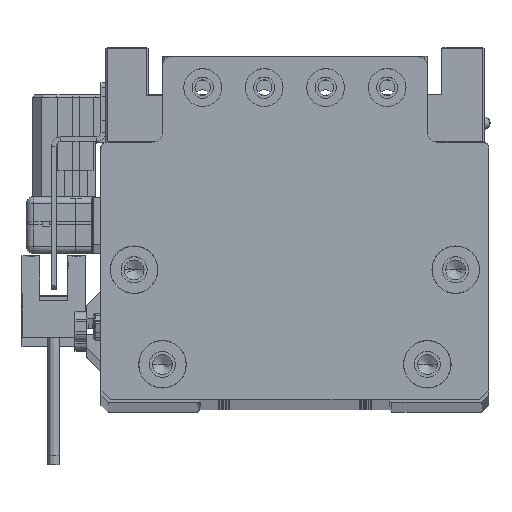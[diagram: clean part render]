
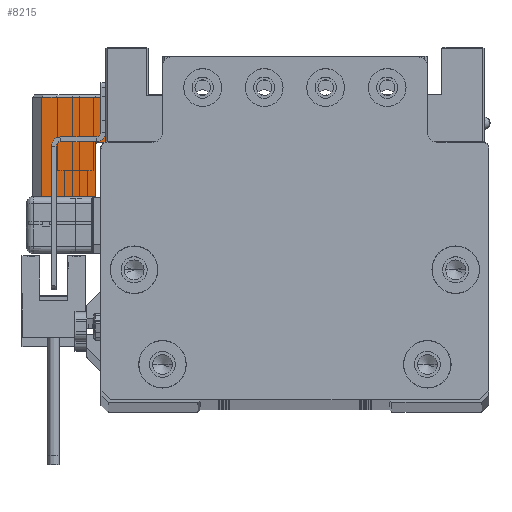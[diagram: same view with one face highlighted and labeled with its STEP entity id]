
A CAD part, top view. The second image highlights one B-rep face of the part: STEP entity #8215.
In plain terms, the highlighted planar face has unit normal (0, 0, 1) as drawn and (1, 0, 0) by its records, which use the part's own axes.
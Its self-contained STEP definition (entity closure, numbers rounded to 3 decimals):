
#59 = FACE_OUTER_BOUND ( 'NONE', #21558, .T. ) ;
#178 = CARTESIAN_POINT ( 'NONE',  ( 17., 0.75, -15.5 ) ) ;
#208 = VERTEX_POINT ( 'NONE', #46116 ) ;
#4350 = LINE ( 'NONE', #7999, #44305 ) ;
#5747 = EDGE_CURVE ( 'NONE', #38354, #52296, #51685, .T. ) ;
#7735 = EDGE_CURVE ( 'NONE', #38327, #23419, #14277, .T. ) ;
#7748 = VECTOR ( 'NONE', #29113, 1000. ) ;
#7999 = CARTESIAN_POINT ( 'NONE',  ( 17., -10.75, -15.5 ) ) ;
#8119 = EDGE_CURVE ( 'NONE', #27201, #38327, #46453, .T. ) ;
#8215 = ADVANCED_FACE ( 'NONE', ( #59 ), #41623, .T. ) ;
#8336 = ORIENTED_EDGE ( 'NONE', *, *, #7735, .T. ) ;
#9387 = DIRECTION ( 'NONE',  ( 0., 0., -1. ) ) ;
#9907 = VECTOR ( 'NONE', #51008, 1000. ) ;
#14277 = LINE ( 'NONE', #47081, #9907 ) ;
#16799 = ORIENTED_EDGE ( 'NONE', *, *, #52931, .F. ) ;
#18471 = AXIS2_PLACEMENT_3D ( 'NONE', #55143, #50633, #9387 ) ;
#19211 = CARTESIAN_POINT ( 'NONE',  ( 17., -10.75, -13.3 ) ) ;
#19350 = DIRECTION ( 'NONE',  ( 0., 1., 0. ) ) ;
#21558 = EDGE_LOOP ( 'NONE', ( #37387, #8336, #30996, #16799, #40894, #56218 ) ) ;
#22289 = LINE ( 'NONE', #49963, #30533 ) ;
#22998 = EDGE_CURVE ( 'NONE', #23419, #208, #22289, .T. ) ;
#23419 = VERTEX_POINT ( 'NONE', #35758 ) ;
#27201 = VERTEX_POINT ( 'NONE', #178 ) ;
#29113 = DIRECTION ( 'NONE',  ( 0., -1., 0. ) ) ;
#30311 = CARTESIAN_POINT ( 'NONE',  ( 17., 10.25, -15.5 ) ) ;
#30533 = VECTOR ( 'NONE', #35833, 1000. ) ;
#30606 = CARTESIAN_POINT ( 'NONE',  ( 17., 0.75, -13.3 ) ) ;
#30996 = ORIENTED_EDGE ( 'NONE', *, *, #22998, .T. ) ;
#32877 = CARTESIAN_POINT ( 'NONE',  ( 17., -10.75, -15.5 ) ) ;
#34262 = EDGE_CURVE ( 'NONE', #27201, #38354, #39743, .T. ) ;
#35758 = CARTESIAN_POINT ( 'NONE',  ( 17., 10.25, -2. ) ) ;
#35833 = DIRECTION ( 'NONE',  ( 0., -1., 0. ) ) ;
#37387 = ORIENTED_EDGE ( 'NONE', *, *, #8119, .T. ) ;
#38327 = VERTEX_POINT ( 'NONE', #30311 ) ;
#38354 = VERTEX_POINT ( 'NONE', #30606 ) ;
#39743 = LINE ( 'NONE', #41127, #54307 ) ;
#40894 = ORIENTED_EDGE ( 'NONE', *, *, #5747, .F. ) ;
#41127 = CARTESIAN_POINT ( 'NONE',  ( 17., 0.75, -15.5 ) ) ;
#41623 = PLANE ( 'NONE',  #18471 ) ;
#44305 = VECTOR ( 'NONE', #58861, 1000. ) ;
#46116 = CARTESIAN_POINT ( 'NONE',  ( 17., -10.75, -2. ) ) ;
#46453 = LINE ( 'NONE', #32877, #55094 ) ;
#47081 = CARTESIAN_POINT ( 'NONE',  ( 17., 10.25, -15.5 ) ) ;
#49963 = CARTESIAN_POINT ( 'NONE',  ( 17., -10.75, -2. ) ) ;
#50633 = DIRECTION ( 'NONE',  ( 1., 0., 0. ) ) ;
#51008 = DIRECTION ( 'NONE',  ( 0., 0., 1. ) ) ;
#51685 = LINE ( 'NONE', #19211, #7748 ) ;
#52296 = VERTEX_POINT ( 'NONE', #56534 ) ;
#52931 = EDGE_CURVE ( 'NONE', #52296, #208, #4350, .T. ) ;
#54307 = VECTOR ( 'NONE', #58101, 1000. ) ;
#55094 = VECTOR ( 'NONE', #19350, 1000. ) ;
#55143 = CARTESIAN_POINT ( 'NONE',  ( 17., -10.75, -15.5 ) ) ;
#56218 = ORIENTED_EDGE ( 'NONE', *, *, #34262, .F. ) ;
#56534 = CARTESIAN_POINT ( 'NONE',  ( 17., -10.75, -13.3 ) ) ;
#58101 = DIRECTION ( 'NONE',  ( 0., 0., 1. ) ) ;
#58861 = DIRECTION ( 'NONE',  ( 0., 0., 1. ) ) ;
